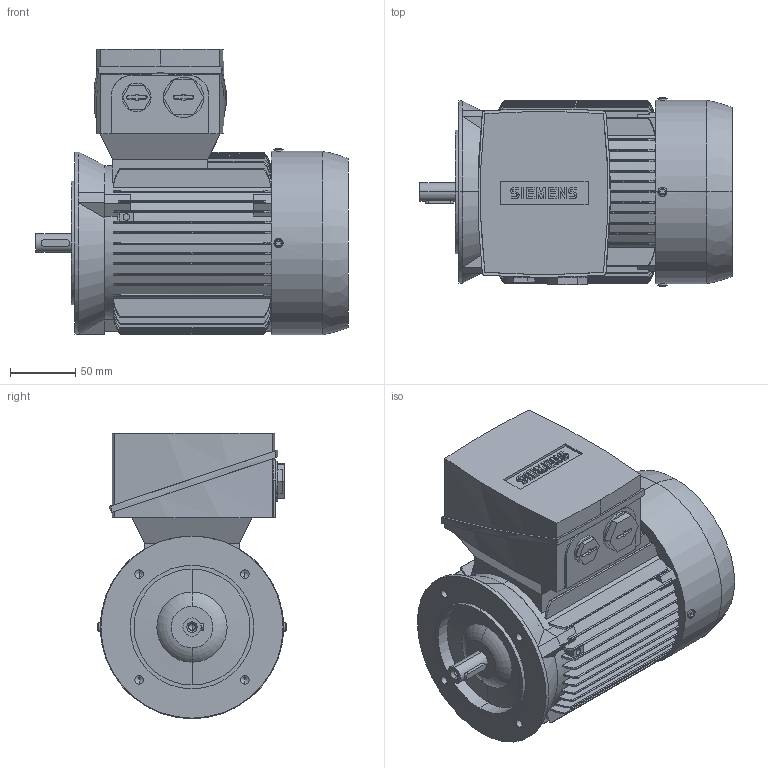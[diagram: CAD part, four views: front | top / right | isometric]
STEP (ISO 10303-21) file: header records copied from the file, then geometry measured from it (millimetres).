
FILE_DESCRIPTION(('STEP AP214'),'1');
FILE_NAME('cctmp_CE967BD4-ABE5-4CC7-8F69-19C55AB90365_2021_11_4_13_35_51_721..stp','2021-11-04T12:35:52',('SIEMENS A&D'),('CADClick - www.CADClick.com'),'Spatial InterOp 3D',' ','unknown authorization');
FILE_SCHEMA(('AUTOMOTIVE_DESIGN'));
Length unit declared in the file: millimetre
Products named in the file (1): 2021_11_04__13-35-51-721
Bounding box: 240 x 145 x 219.5 mm (x, y, z)
Volume: 3659440 mm3; surface area: 280128.6 mm2
Topology: 1 solids, 1 shells, 691 faces, 1838 edges, 1205 vertices
Faces by surface type: plane 406, cylinder 163, torus 90, cone 32
Entity records: 31698 total; most frequent: CARTESIAN_POINT 9321, ORIENTED_EDGE 3656, DIRECTION 3259, EDGE_CURVE 1828, VERTEX_POINT 1205, AXIS2_PLACEMENT_3D 1100, LINE 1059, VECTOR 1059
